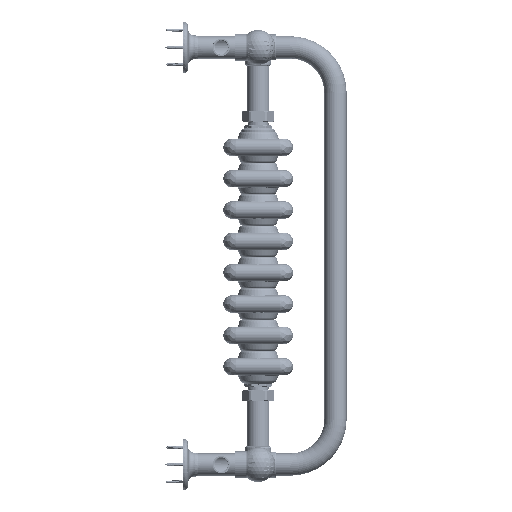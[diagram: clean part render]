
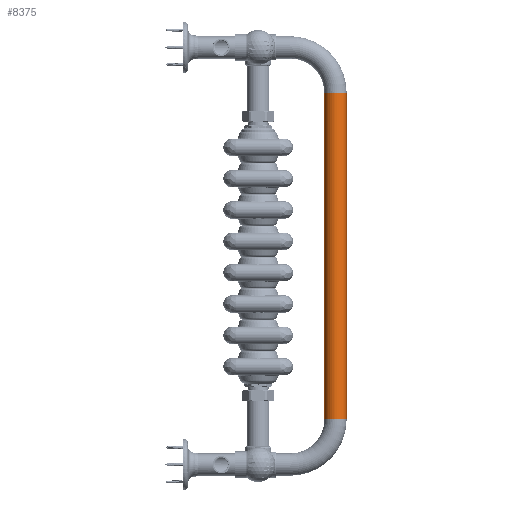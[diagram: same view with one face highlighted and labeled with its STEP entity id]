
A CAD part, front view. The second image highlights one B-rep face of the part: STEP entity #8375.
In plain terms, the highlighted cylindrical face has radius 16 mm (diameter 32 mm), a full revolution.
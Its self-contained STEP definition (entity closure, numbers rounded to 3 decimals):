
#4586=FACE_BOUND('',#12101,.T.);
#4587=FACE_BOUND('',#12102,.T.);
#4958=CYLINDRICAL_SURFACE('',#30580,16.);
#6625=CIRCLE('',#30578,16.);
#6626=CIRCLE('',#30579,16.);
#8375=ADVANCED_FACE('',(#4586,#4587),#4958,.T.);
#12101=EDGE_LOOP('',(#19554));
#12102=EDGE_LOOP('',(#19555));
#19554=ORIENTED_EDGE('',*,*,#26211,.F.);
#19555=ORIENTED_EDGE('',*,*,#26212,.T.);
#22414=VERTEX_POINT('',#144624);
#22415=VERTEX_POINT('',#144626);
#26211=EDGE_CURVE('',#22414,#22414,#6625,.T.);
#26212=EDGE_CURVE('',#22415,#22415,#6626,.T.);
#30578=AXIS2_PLACEMENT_3D('',#144623,#37450,#37451);
#30579=AXIS2_PLACEMENT_3D('',#144625,#37452,#37453);
#30580=AXIS2_PLACEMENT_3D('',#144627,#37454,#37455);
#37450=DIRECTION('',(0.,0.,1.));
#37451=DIRECTION('',(1.,0.,0.));
#37452=DIRECTION('',(0.,0.,1.));
#37453=DIRECTION('',(1.,0.,0.));
#37454=DIRECTION('',(0.,0.,1.));
#37455=DIRECTION('',(1.,0.,0.));
#144623=CARTESIAN_POINT('',(111.,152.,234.5));
#144624=CARTESIAN_POINT('',(127.,152.,234.5));
#144625=CARTESIAN_POINT('',(111.,152.,-234.5));
#144626=CARTESIAN_POINT('',(127.,152.,-234.5));
#144627=CARTESIAN_POINT('',(111.,152.,-39.5));
